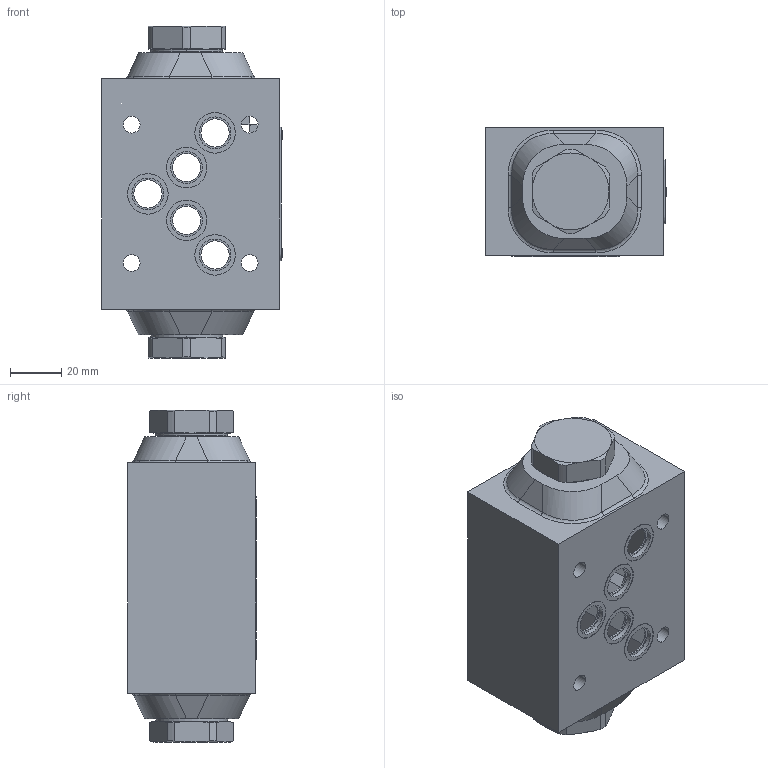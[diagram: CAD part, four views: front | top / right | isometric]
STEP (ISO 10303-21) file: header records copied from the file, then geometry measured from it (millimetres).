
FILE_DESCRIPTION((''),'2;1');
FILE_NAME('INVALIDASM003_ASM','2018-10-15T',('l.soukupova'),(''),'PRO/ENGINEER BY PARAMETRIC TECHNOLOGY CORPORATION, 2015440','PRO/ENGINEER BY PARAMETRIC TECHNOLOGY CORPORATION, 2015440','');
FILE_SCHEMA(('AUTOMOTIVE_DESIGN { 1 0 10303 214 1 1 1 1 }'));
Length unit declared in the file: millimetre
Products named in the file (13): 31454400_AF0; 31454700_AF0; 31456100_AF0; 31456700_AF0; 31456000_AF0; 20286900_AF0; 31455000_AF0; RD_LABEL_25X52_159703; AF_1932_16485; DKAR00014_N70; BG2000220_242154; OR2502150_201455; INVALIDASM003_ASM
Assembly tree (19 placements, depth 2):
  INVALIDASM003_ASM
    31454400_AF0
    31454700_AF0
    31456100_AF0
    31456700_AF0
    31456000_AF0
    20286900_AF0
    31455000_AF0
    RD_LABEL_25X52_159703
    AF_1932_16485  x2
    DKAR00014_N70  x5
    BG2000220_242154  x2
    OR2502150_201455  x2
Bounding box: 70.5 x 50.28 x 129.5 mm (x, y, z)
Volume: 185624.6 mm3; surface area: 73211.1 mm2
Topology: 19 solids, 25 shells, 817 faces, 2378 edges, 1773 vertices
Faces by surface type: plane 545, cylinder 174, cone 54, torus 28, bspline 16
Entity records: 44150 total; most frequent: CARTESIAN_POINT 11317, DIRECTION 4215, ORIENTED_EDGE 4030, PRESENTATION_STYLE_ASSIGNMENT 2961, STYLED_ITEM 2947, CURVE_STYLE 2341, EDGE_CURVE 2029, VECTOR 1747
